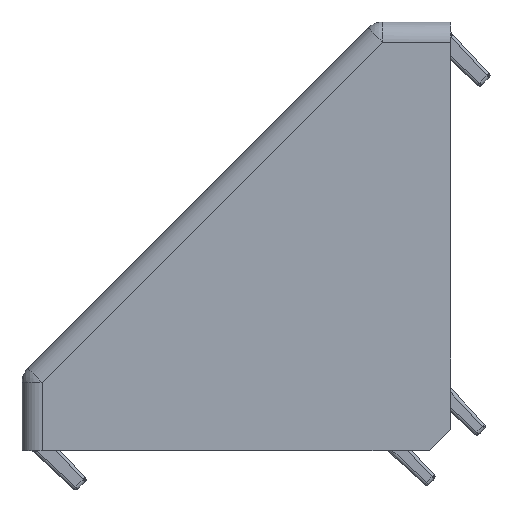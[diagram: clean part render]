
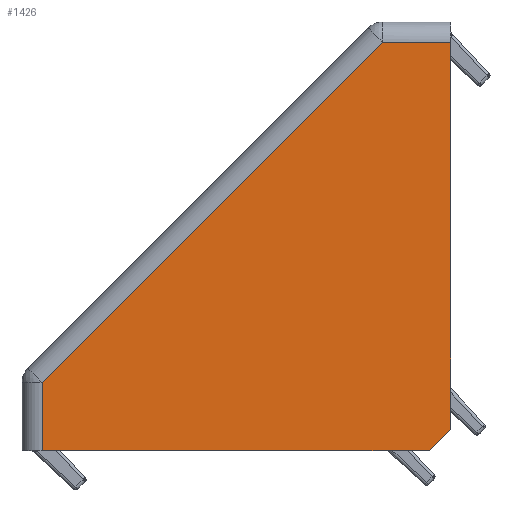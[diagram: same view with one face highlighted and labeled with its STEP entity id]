
A CAD part, left-side view. The second image highlights one B-rep face of the part: STEP entity #1426.
In plain terms, the highlighted planar face has unit normal (-1, 0.009, 0).
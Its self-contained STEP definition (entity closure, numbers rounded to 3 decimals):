
#1426=ADVANCED_FACE('NONE',(#2921),#2922,.T.);
#2921=FACE_OUTER_BOUND('',#8413,.T.);
#2922=PLANE('',#8414);
#8413=EDGE_LOOP('',(#12573,#12574,#12575,#12576,#12577,#12578));
#8414=AXIS2_PLACEMENT_3D('',#12579,#12580,#12581);
#12573=ORIENTED_EDGE('',*,*,#14715,.F.);
#12574=ORIENTED_EDGE('',*,*,#14022,.F.);
#12575=ORIENTED_EDGE('',*,*,#14730,.T.);
#12576=ORIENTED_EDGE('',*,*,#14357,.T.);
#12577=ORIENTED_EDGE('',*,*,#14816,.T.);
#12578=ORIENTED_EDGE('',*,*,#14108,.F.);
#12579=CARTESIAN_POINT('',(-21.5,0.0,0.0));
#12580=DIRECTION('',(-1.,0.009,0.));
#12581=DIRECTION('',(0.,0.0,1.0));
#14022=EDGE_CURVE('NONE',#16313,#16315,#16316,.T.);
#14108=EDGE_CURVE('NONE',#16449,#16451,#16452,.T.);
#14357=EDGE_CURVE('NONE',#16370,#15371,#16782,.T.);
#14715=EDGE_CURVE('NONE',#16315,#16449,#17184,.T.);
#14730=EDGE_CURVE('NONE',#16313,#16370,#17200,.T.);
#14816=EDGE_CURVE('NONE',#15371,#16451,#17287,.T.);
#15371=VERTEX_POINT('NONE',#18514);
#16313=VERTEX_POINT('NONE',#20939);
#16315=VERTEX_POINT('NONE',#20951);
#16316=LINE('',#20952,#20953);
#16370=VERTEX_POINT('NONE',#21104);
#16449=VERTEX_POINT('NONE',#21341);
#16451=VERTEX_POINT('NONE',#21344);
#16452=LINE('',#21345,#21346);
#16782=LINE('',#22271,#22272);
#17184=LINE('',#23251,#23252);
#17200=LINE('',#23272,#23273);
#17287=LINE('',#23434,#23435);
#18514=CARTESIAN_POINT('',(-21.151,40.017,6.669));
#20939=CARTESIAN_POINT('',(-21.5,0.,40.0));
#20951=CARTESIAN_POINT('',(-21.5,0.0,2.121));
#20952=CARTESIAN_POINT('',(-21.5,0.0,0.0));
#20953=VECTOR('',#24494,1000.0);
#21104=CARTESIAN_POINT('',(-21.442,6.687,40.0));
#21341=CARTESIAN_POINT('',(-21.481,2.121,0.));
#21344=CARTESIAN_POINT('',(-21.151,40.017,0.0));
#21345=CARTESIAN_POINT('',(-21.5,0.0,0.0));
#21346=VECTOR('',#24580,1000.0);
#22271=CARTESIAN_POINT('',(-21.146,40.595,6.092));
#22272=VECTOR('',#24806,1000.0);
#23251=CARTESIAN_POINT('',(-21.491,1.061,1.061));
#23252=VECTOR('',#25120,1000.0);
#23272=CARTESIAN_POINT('',(-21.435,7.497,40.0));
#23273=VECTOR('',#25134,1000.0);
#23434=CARTESIAN_POINT('',(-21.151,40.017,0.));
#23435=VECTOR('',#25188,1000.0);
#24494=DIRECTION('',(-0.0,0.,-1.0));
#24580=DIRECTION('',(0.009,1.,0.0));
#24806=DIRECTION('',(0.006,0.707,-0.707));
#25120=DIRECTION('',(0.006,0.707,-0.707));
#25134=DIRECTION('',(0.009,1.,-0.0));
#25188=DIRECTION('',(0.,-0.0,-1.0));
